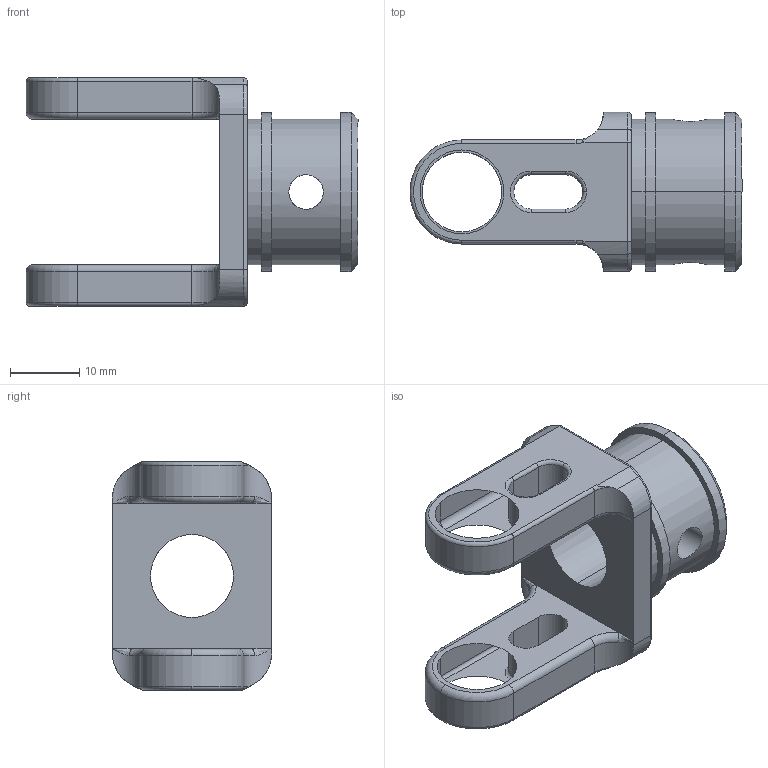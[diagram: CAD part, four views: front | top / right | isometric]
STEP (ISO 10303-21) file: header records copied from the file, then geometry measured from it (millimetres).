
FILE_DESCRIPTION (( 'STEP AP203' ), '1' );
FILE_NAME ('HJ-M-01.STEP', '2022-04-08T08:35:55', ( 'Windows 蚚誧' ), ( '' ), 'SwSTEP 2.0', 'SolidWorks 2020', '' );
FILE_SCHEMA (( 'CONFIG_CONTROL_DESIGN' ));
Length unit declared in the file: millimetre
Products named in the file (1): HJ-M-01
Bounding box: 48 x 23 x 33 mm (x, y, z)
Surface area: 5506.6 mm2 (no closed solid volume)
Topology: 0 solids, 1 shells, 106 faces, 263 edges, 159 vertices
Faces by surface type: cylinder 50, torus 28, plane 20, cone 4, bspline 4
Entity records: 3683 total; most frequent: CARTESIAN_POINT 1053, DIRECTION 572, ORIENTED_EDGE 510, EDGE_CURVE 259, AXIS2_PLACEMENT_3D 238, VERTEX_POINT 159, CIRCLE 135, EDGE_LOOP 124
